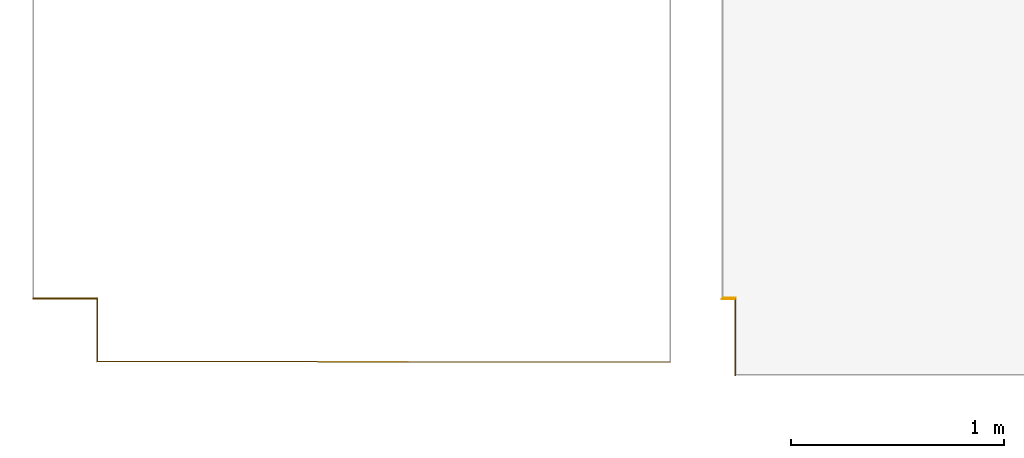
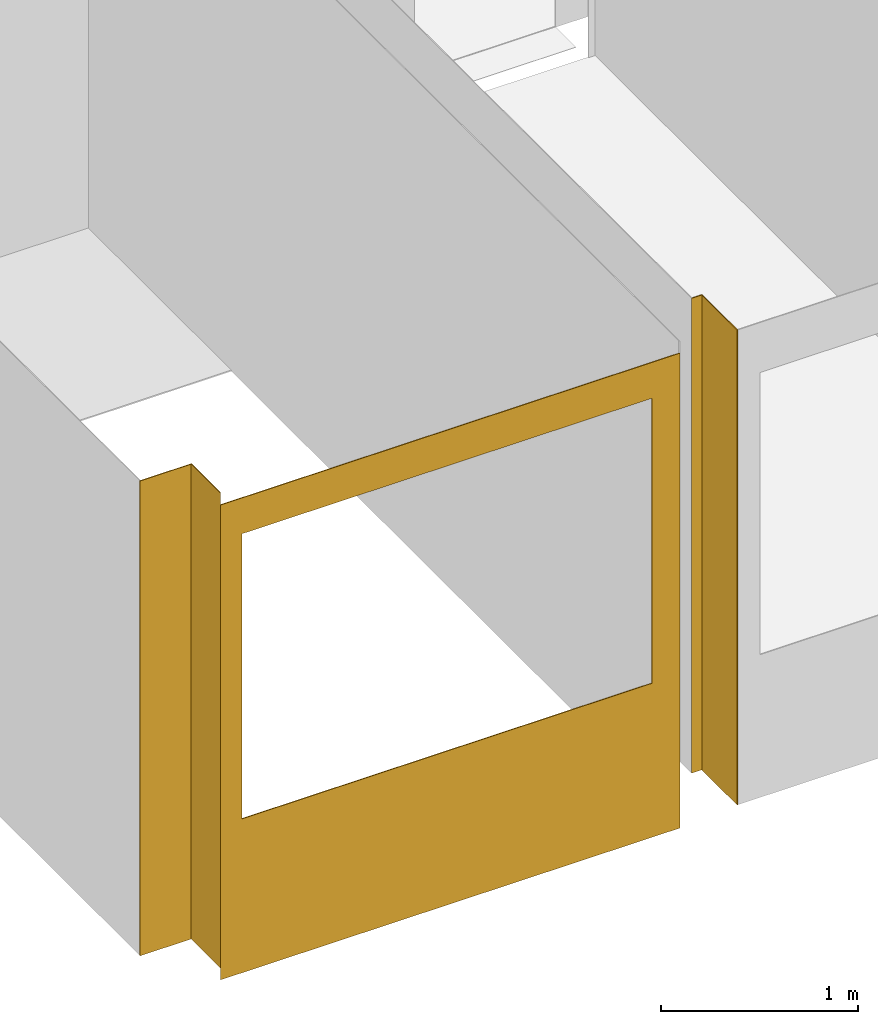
# One storey, part 1 of 16: 5 coverings, 1 opening.
"""IFC2X3 building model written with IfcOpenShell, lengths in millimetres."""

import ifcopenshell
import ifcopenshell.guid

model = None  # the IFC model being written
_history = None  # IfcOwnerHistory: only IFC2X3 demands one
_inside = {}  # id of a spatial element -> (the spatial element, [elements in it])
_under = {}  # id of a project, library or spatial element -> (it, [spatial elements below it])
_declared = {}  # id of a project -> (the project, [libraries it declares])
_typed = {}  # id of a type object -> (the type object, [elements of that type])
_made_of = {}  # id of a material, layer set ... -> (it, [elements and type objects made of it])


def new_model(schema):
    """Start an empty IFC model of exactly this schema.

    Asked for "IFC4X3", IfcOpenShell would pick the latest addendum, in which some entities
    have other attributes; the version numbers below select the first issue.
    IFC2X3 requires an IfcOwnerHistory on every rooted entity: one is made here for all.
    """
    global model, _history
    if schema == "IFC4X3":
        model = ifcopenshell.file(schema_version=(4, 3, 0, 0))
    else:
        model = ifcopenshell.file(schema=schema)
    _inside.clear()
    _under.clear()
    _declared.clear()
    _typed.clear()
    _made_of.clear()
    _history = None
    if model.schema == "IFC2X3":
        org = make("IfcOrganization", Name="unknown")
        user = make(
            "IfcPersonAndOrganization",
            ThePerson=make("IfcPerson", FamilyName="unknown"),
            TheOrganization=org,
        )
        app = make(
            "IfcApplication",
            ApplicationDeveloper=org,
            Version="unknown",
            ApplicationFullName="unknown",
            ApplicationIdentifier="unknown",
        )
        _history = make(
            "IfcOwnerHistory",
            OwningUser=user,
            OwningApplication=app,
            ChangeAction="ADDED",
            CreationDate=0,
        )
    return model


def make(cls, **values):
    """One entity of the class cls with the attributes given. An attribute that is None is left unset."""
    return model.create_entity(
        cls, **{name: value for name, value in values.items() if value is not None}
    )


def entity(cls, *values):
    """Any entity or typed value of the class cls, its attributes in the order of the schema. None: left unset."""
    e = model.create_entity(cls)
    for i, value in enumerate(values):
        if value is not None:
            e[i] = value
    return e


def rooted(cls, **values):
    """An entity with a GlobalId (a new one), such as an element, a storey or a relation."""
    return make(cls, GlobalId=ifcopenshell.guid.new(), OwnerHistory=_history, **values)


def si_unit(unit_type, name, prefix=None):
    """IfcSIUnit, for example si_unit("LENGTHUNIT", "METRE", prefix="MILLI")."""
    return make("IfcSIUnit", UnitType=unit_type, Prefix=prefix, Name=name)


def converted_unit(unit_type, name, factor, base, dimensions=None, offset=None):
    """IfcConversionBasedUnit, such as the inch: factor (a typed value) times the base unit."""
    return make(
        "IfcConversionBasedUnit"
        if offset is None
        else "IfcConversionBasedUnitWithOffset",
        ConversionOffset=offset,
        Dimensions=None
        if dimensions is None
        else entity("IfcDimensionalExponents", *dimensions),
        UnitType=unit_type,
        Name=name,
        ConversionFactor=make(
            "IfcMeasureWithUnit", ValueComponent=factor, UnitComponent=base
        ),
    )


def derived_unit(unit_type, elements):
    """IfcDerivedUnit: a product of units, each with its exponent."""
    return make(
        "IfcDerivedUnit",
        Elements=[
            make("IfcDerivedUnitElement", Unit=unit, Exponent=power)
            for unit, power in elements
        ],
        UnitType=unit_type,
    )


def money_unit(currency):
    """IfcMonetaryUnit."""
    return make("IfcMonetaryUnit", Currency=currency)


def assignment(units):
    """IfcUnitAssignment: the units of a project."""
    return None if units is None else make("IfcUnitAssignment", Units=units)


def point(xyz):
    """IfcCartesianPoint."""
    return None if xyz is None else make("IfcCartesianPoint", Coordinates=xyz)


def direction(xyz):
    """IfcDirection."""
    return None if xyz is None else make("IfcDirection", DirectionRatios=xyz)


def frame(location, z_axis=None, x_axis=None):
    """IfcAxis2Placement3D, a coordinate frame: its origin and axes. An axis left out is left unset."""
    return make(
        "IfcAxis2Placement3D",
        Location=point(location),
        Axis=direction(z_axis),
        RefDirection=direction(x_axis),
    )


def frame_2d(location, x_axis=None):
    """IfcAxis2Placement2D, a coordinate frame in the plane: its origin and x axis."""
    return make(
        "IfcAxis2Placement2D", Location=point(location), RefDirection=direction(x_axis)
    )


def origin_with_axes():
    """The frame at (0, 0, 0) with the z axis (0, 0, 1) and the x axis (1, 0, 0) written out."""
    return frame((0.0, 0.0, 0.0), z_axis=(0.0, 0.0, 1.0), x_axis=(1.0, 0.0, 0.0))


def origin_2d_with_axis():
    """The frame at (0, 0) in the plane with the x axis (1, 0) written out."""
    return frame_2d((0.0, 0.0), x_axis=(1.0, 0.0))


def place(relative_to, where):
    """IfcLocalPlacement: puts the frame where relative to a parent placement (None: the world)."""
    return make(
        "IfcLocalPlacement", PlacementRelTo=relative_to, RelativePlacement=where
    )


def context(
    kind, dimensions, precision=None, world=None, true_north=None, identifier=None
):
    """IfcGeometricRepresentationContext, for example the 3D "Model" context."""
    return make(
        "IfcGeometricRepresentationContext",
        ContextIdentifier=identifier,
        ContextType=kind,
        CoordinateSpaceDimension=dimensions,
        Precision=precision,
        WorldCoordinateSystem=world,
        TrueNorth=true_north,
    )


def subcontext(parent, identifier, kind, view, scale=None):
    """IfcGeometricRepresentationSubContext, for example "Body" below "Model"."""
    return make(
        "IfcGeometricRepresentationSubContext",
        ContextIdentifier=identifier,
        ContextType=kind,
        ParentContext=parent,
        TargetScale=scale,
        TargetView=view,
    )


def project(units=None, contexts=None):
    """IfcProject with its units and contexts."""
    return rooted(
        "IfcProject",
        Name="project",
        RepresentationContexts=contexts,
        UnitsInContext=assignment(units),
    )


def spatial(cls, under=None, at=None, **own):
    """A site, building, storey or space (cls), placed at a placement, below another one or the project."""
    s = rooted(cls, ObjectPlacement=at, **own)
    if under is not None:
        _under.setdefault(under.id(), (under, []))[1].append(s)
    return s


def polyline(points):
    """IfcPolyline through the points."""
    return make("IfcPolyline", Points=[point(p) for p in points])


def profile(cls, at=None, kind="AREA", **sizes):
    """A parametric profile (cls). Its sizes go by their IFC names, for example OverallWidth=200.0."""
    return make(cls, ProfileType=kind, Position=at, **sizes)


def rectangle(**sizes):
    """IfcRectangleProfileDef."""
    return profile("IfcRectangleProfileDef", **sizes)


def outline(outer, holes=None, kind="AREA"):
    """IfcArbitraryClosedProfileDef: a profile drawn as a closed curve; with holes, ...WithVoids."""
    if holes is None:
        return make("IfcArbitraryClosedProfileDef", ProfileType=kind, OuterCurve=outer)
    return make(
        "IfcArbitraryProfileDefWithVoids",
        ProfileType=kind,
        OuterCurve=outer,
        InnerCurves=holes,
    )


def extrude(swept, where, along, depth):
    """IfcExtrudedAreaSolid: the profile swept, set in the frame where, extruded along a direction by depth."""
    return make(
        "IfcExtrudedAreaSolid",
        SweptArea=swept,
        Position=where,
        ExtrudedDirection=direction(along),
        Depth=depth,
    )


def shape(context_of_items, identifier, shape_type, items):
    """IfcShapeRepresentation: the items that make up one representation, for example the "Body"."""
    return make(
        "IfcShapeRepresentation",
        ContextOfItems=context_of_items,
        RepresentationIdentifier=identifier,
        RepresentationType=shape_type,
        Items=items,
    )


def material(Name=None, Category=None):
    """IfcMaterial."""
    return make("IfcMaterial", Name=Name, Category=Category)


def made_of(thing, what):
    """Note that an element or type object is made of a material, layer set ...; save() writes the relation."""
    if what is not None:
        _made_of.setdefault(what.id(), (what, []))[1].append(thing)
    return thing


def type_object(cls, material=None, **own):
    """A type object (cls), such as IfcWallType, which elements share."""
    return made_of(rooted(cls, **own), material)


def element(
    cls,
    number,
    at=None,
    inside=None,
    cuts=None,
    type_object=None,
    material=None,
    context=None,
    identifier="Body",
    shape_type=None,
    held_by="IfcProductDefinitionShape",
    body=None,
    shapes=None,
    **own,
):
    """One element of the class cls, such as IfcWall. Its Tag is "e" and its number.

    at: its placement. inside: the storey or other place that contains it. cuts: it is an
    opening in that element (IfcRelVoidsElement). A single representation is given by context,
    identifier, shape_type and body (its items); several are given by shapes. held_by: the class
    of the entity that holds the representations. save() writes the other relations.
    """
    e = rooted(cls, Tag="e%d" % number, ObjectPlacement=at, **own)
    if body is not None:
        shapes = [shape(context, identifier, shape_type, body)]
    if shapes is not None:
        e.Representation = make(held_by, Representations=shapes)
    if inside is not None:
        _inside.setdefault(inside.id(), (inside, []))[1].append(e)
    if cuts is not None:
        rooted(
            "IfcRelVoidsElement", RelatingBuildingElement=cuts, RelatedOpeningElement=e
        )
    if type_object is not None:
        _typed.setdefault(type_object.id(), (type_object, []))[1].append(e)
    return made_of(e, material)


def aggregate(whole, parts):
    """IfcRelAggregates: a whole, such as a stair, and the parts it consists of."""
    return rooted("IfcRelAggregates", RelatingObject=whole, RelatedObjects=parts)


def save(model, path):
    """Write the relations noted so far, then the file.

    IfcRelAggregates (storeys below a building ...), IfcRelContainedInSpatialStructure (elements
    in a storey), IfcRelDefinesByType, IfcRelAssociatesMaterial and IfcRelDeclares: one each for
    every whole, place, type object, material and project.
    """
    for whole, parts in _under.values():
        aggregate(whole, parts)
    for where, things in _inside.values():
        rooted(
            "IfcRelContainedInSpatialStructure",
            RelatedElements=things,
            RelatingStructure=where,
        )
    for kind, things in _typed.values():
        rooted("IfcRelDefinesByType", RelatedObjects=things, RelatingType=kind)
    for what, things in _made_of.values():
        rooted("IfcRelAssociatesMaterial", RelatedObjects=things, RelatingMaterial=what)
    for by, libraries in _declared.values():
        rooted("IfcRelDeclares", RelatingContext=by, RelatedDefinitions=libraries)
    model.write(path)


model = new_model("IFC2X3")

# Units and contexts
model_context = context("Model", 3, precision=0.01, world=origin_with_axes(), true_north=direction((0.0, 1.0)))
body_context = subcontext(model_context, "Body", "Model", "MODEL_VIEW")
ifc_project = project(units=[si_unit("LENGTHUNIT", "METRE", prefix="MILLI"), si_unit("AREAUNIT", "SQUARE_METRE"), si_unit("VOLUMEUNIT", "CUBIC_METRE"), converted_unit("PLANEANGLEUNIT", "DEGREE", entity("IfcPlaneAngleMeasure", 0.0174532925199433), si_unit("PLANEANGLEUNIT", "RADIAN"), dimensions=[0, 0, 0, 0, 0, 0, 0]), money_unit("EUR"), converted_unit("TIMEUNIT", "Year", entity("IfcTimeMeasure", 31556926.0), si_unit("TIMEUNIT", "SECOND"), dimensions=[0, 0, 1, 0, 0, 0, 0]), si_unit("MASSUNIT", "GRAM", prefix="KILO"), si_unit("THERMODYNAMICTEMPERATUREUNIT", "DEGREE_CELSIUS"), si_unit("LUMINOUSINTENSITYUNIT", "LUMEN"), si_unit("ENERGYUNIT", "JOULE", prefix="MEGA"), derived_unit("THERMALCONDUCTANCEUNIT", [(si_unit("POWERUNIT", "WATT"), 1), (si_unit("LENGTHUNIT", "METRE"), -1), (si_unit("THERMODYNAMICTEMPERATUREUNIT", "KELVIN"), -1)]), derived_unit("SPECIFICHEATCAPACITYUNIT", [(si_unit("ENERGYUNIT", "JOULE"), 1), (si_unit("MASSUNIT", "GRAM", prefix="KILO"), -1), (si_unit("THERMODYNAMICTEMPERATUREUNIT", "KELVIN"), -1)]), derived_unit("MASSDENSITYUNIT", [(si_unit("MASSUNIT", "GRAM", prefix="KILO"), 1), (si_unit("VOLUMEUNIT", "CUBIC_METRE"), -1)])], contexts=[model_context])

# Site, building, storey
site_placement = place(None, origin_with_axes())
site = spatial("IfcSite", under=ifc_project, at=site_placement, Name="Paldiski mnt 245/1, Tallinn, Harjumaa", CompositionType="COMPLEX")
building_placement = place(site_placement, origin_with_axes())
building = spatial("IfcBuilding", under=site, at=building_placement, Name="RKAS Hoone üldnimetus (kasutust iseloomustav) -> IFC Project Manager -> SOLIBRI", CompositionType="ELEMENT")
storey_placement = place(building_placement, frame((0.0, 0.0, 3300.0), z_axis=(0.0, 0.0, 1.0), x_axis=(1.0, 0.0, 0.0)))
storey = spatial("IfcBuildingStorey", under=building, at=storey_placement, Name="Teine korrus", CompositionType="ELEMENT", Elevation=3300.0)

# Covering, opening
ifc_material_1 = material(Name="SA- Värv SM10(tumehall)")
covering_type_1 = type_object("IfcCoveringType", Name="SA- Värv SM10(tumehall) 5", PredefinedType="CLADDING")
covering_1_placement = place(storey_placement, frame((-47289.99301854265, -12446.58824026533, -75.00000000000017), z_axis=(0.0, 0.0, 1.0), x_axis=(0.9999997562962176, -0.0006981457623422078, 0.0)))
covering_1 = element("IfcCovering", 1, at=covering_1_placement, inside=storey, type_object=covering_type_1, material=ifc_material_1, Name="SM10", PredefinedType="CLADDING", context=body_context, shape_type="SweptSolid", body=[
    extrude(outline(polyline([(0.0, 0.0), (2700.000658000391, 0.0), (2694.997160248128, 4.999999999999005), (4.996392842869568, 5.000000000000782), (0.0, 0.0)])), origin_with_axes(), (0.0, 0.0, 1.0), 2950.0),
])
opening_placement = place(covering_1_placement, frame((47281.29196095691, 12479.60051521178, -3225.0), z_axis=(0.0, 0.0, 1.0), x_axis=(0.9999997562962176, 0.0006981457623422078, 0.0)))
element("IfcOpeningElement", 2, at=opening_placement, cuts=covering_1, Name="AVA", ObjectType="OPENING", context=body_context, shape_type="SweptSolid", body=[
    extrude(rectangle(XDim=2406.645458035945, YDim=1770.966998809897, at=origin_2d_with_axis()), frame((-45958.45711463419, -12455.35822708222, 5066.850485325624), z_axis=(-0.0006981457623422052, -0.9999997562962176, 0.0), x_axis=(0.9999997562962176, -0.0006981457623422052, 0.0)), (0.0, 0.0, -1.0), 20.65498343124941),
])

# Coverings
ifc_material_2 = material(Name="SA- Värv SM5(valge)")
covering_type_2 = type_object("IfcCoveringType", Name="SA- Värv SM5(valge) 5", PredefinedType="CLADDING")
covering_2_placement = place(storey_placement, frame((-44290.00000000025, -12150.08408706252, 0.0), z_axis=(0.0, 0.0, 1.0), x_axis=(0.0, -1.0, 0.0)))
element("IfcCovering", 3, at=covering_2_placement, inside=storey, type_object=covering_type_2, material=ifc_material_2, Name="SM5", PredefinedType="CLADDING", context=body_context, shape_type="SweptSolid", body=[
    extrude(outline(polyline([(0.0, 0.0), (360.0002140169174, 0.0), (360.0002140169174, 5.000000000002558), (-5.000000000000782, 5.000000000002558), (0.0, 0.0)])), origin_with_axes(), (0.0, 0.0, 1.0), 2950.0),
])
covering_3_placement = place(storey_placement, frame((-44350.00000000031, -12150.08408706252, 0.0), z_axis=(0.0, 0.0, 1.0), x_axis=(1.0, 0.0, 0.0)))
element("IfcCovering", 4, at=covering_3_placement, inside=storey, type_object=covering_type_2, material=ifc_material_2, Name="SM5", PredefinedType="CLADDING", context=body_context, shape_type="SweptSolid", body=[
    extrude(outline(polyline([(0.0, 0.0), (60.00000000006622, 0.0), (65.00000000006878, 5.000000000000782), (5.000000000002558, 5.000000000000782), (0.0, 0.0)])), origin_with_axes(), (0.0, 0.0, 1.0), 2950.0),
])
covering_4_placement = place(storey_placement, frame((-47290.00000000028, -12150.08408706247, 0.0), z_axis=(0.0, 0.0, 1.0), x_axis=(-1.0, 0.0, 0.0)))
element("IfcCovering", 5, at=covering_4_placement, inside=storey, type_object=covering_type_2, material=ifc_material_2, Name="SM5", PredefinedType="CLADDING", context=body_context, shape_type="SweptSolid", body=[
    extrude(outline(polyline([(-4.999882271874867, -5.000000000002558), (300.0000000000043, -5.000000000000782), (299.9999999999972, 0.0), (0.0, 0.0), (-4.999882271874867, -5.000000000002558)])), origin_with_axes(), (0.0, 0.0, 1.0), 2950.0),
])
covering_5_placement = place(storey_placement, frame((-47289.99301854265, -12446.58824026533, 0.0), z_axis=(0.0, 0.0, 1.0), x_axis=(-2.354590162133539e-05, 0.9999999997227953, 0.0)))
element("IfcCovering", 6, at=covering_5_placement, inside=storey, type_object=covering_type_2, material=ifc_material_2, Name="SM5", PredefinedType="CLADDING", context=body_context, shape_type="SweptSolid", body=[
    extrude(outline(polyline([(4.996392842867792, -5.000000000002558), (301.5040355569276, -5.000000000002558), (296.5041532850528, 0.0), (0.0, 0.0), (4.996392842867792, -5.000000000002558)])), origin_with_axes(), (0.0, 0.0, 1.0), 2950.0),
])

save(model, "model.ifc")
